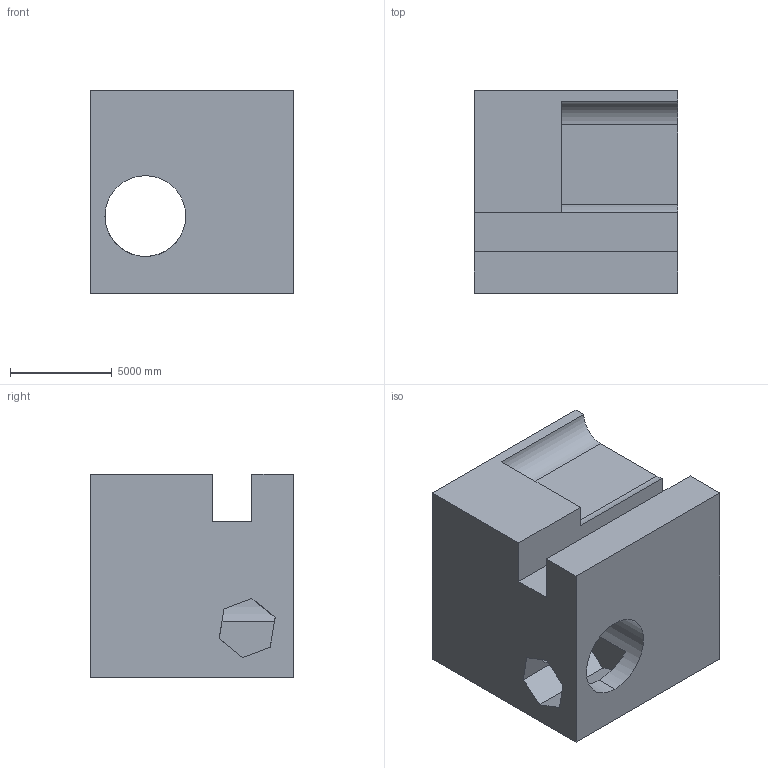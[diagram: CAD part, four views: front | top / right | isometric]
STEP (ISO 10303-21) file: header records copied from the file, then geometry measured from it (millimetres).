
FILE_DESCRIPTION (( 'STEP AP203' ), '1' );
FILE_NAME ('76.STEP', '2022-08-31T11:25:38', ( 'user' ), ( '' ), 'SwSTEP 2.0', 'SolidWorks 2021', '' );
FILE_SCHEMA (( 'CONFIG_CONTROL_DESIGN' ));
Length unit declared in the file: centimetre
Products named in the file (1): 76
Bounding box: 10000 x 10000 x 10000 mm (x, y, z)
Volume: 784495730010 mm3; surface area: 741567747.5 mm2
Topology: 1 solids, 1 shells, 24 faces, 69 edges, 46 vertices
Faces by surface type: plane 20, cylinder 4
Entity records: 866 total; most frequent: CARTESIAN_POINT 164, ORIENTED_EDGE 138, DIRECTION 119, EDGE_CURVE 69, VECTOR 53, LINE 53, VERTEX_POINT 46, AXIS2_PLACEMENT_3D 33
